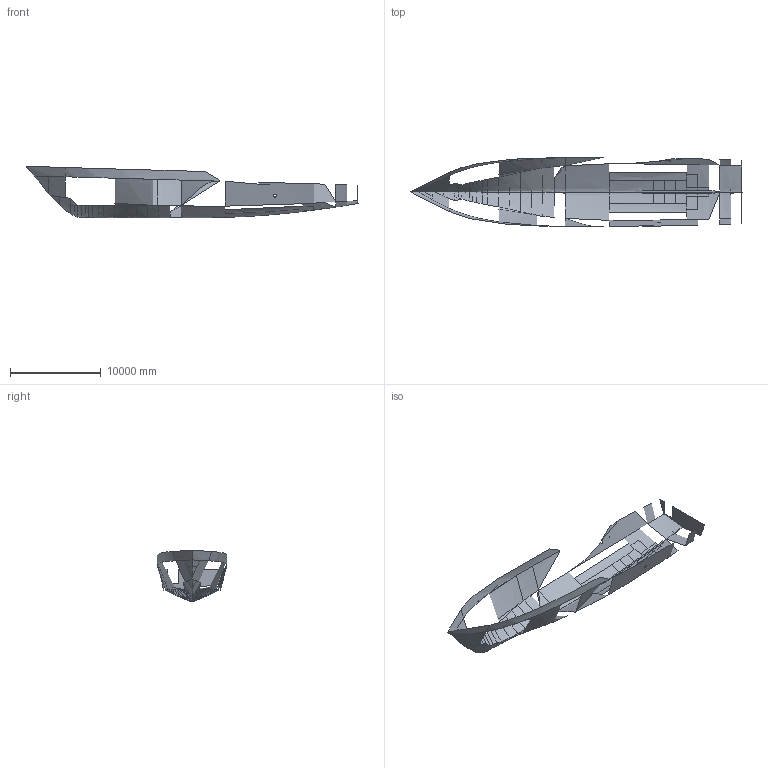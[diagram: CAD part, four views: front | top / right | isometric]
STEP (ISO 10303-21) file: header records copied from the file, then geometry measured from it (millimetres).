
FILE_DESCRIPTION(/* description */ ('LEAPS TWR Hull Export with repaired geometry '),/* implementation_level */ '2;1');
FILE_NAME(/* name */ 'Test-case-A-20041203',/* time_stamp */ '2004-12-03T07:13:24-05:00',/* author */ ('Leaps User'),/* organization */ ('NSWCCD Code 261'),/* preprocessor_version */ 'ST-DEVELOPER v10',/* originating_system */ 'NSWCCD Leaps 3.2',/* authorisation */ 'N00167-04-M-0749');
FILE_SCHEMA (('SHIP_MOULDED_FORM_SCHEMA'));
Length unit declared in the file: metre
Products named in the file (7): TWR 44
Bounding box: 36610.7 x 7701.59 x 5684.7 mm (x, y, z)
Surface area: 439542416.7 mm2 (no closed solid volume)
Topology: 0 solids, 5 shells, 132 faces, 524 edges, 238 vertices
Faces by surface type: bspline 132
Entity records: 22432 total; most frequent: CARTESIAN_POINT 20355, ORIENTED_EDGE 627, EDGE_CURVE 407, VERTEX_POINT 238, B_SPLINE_CURVE_WITH_KNOTS 143, EDGE_LOOP 136, FACE_OUTER_BOUND 132, ADVANCED_FACE 132
